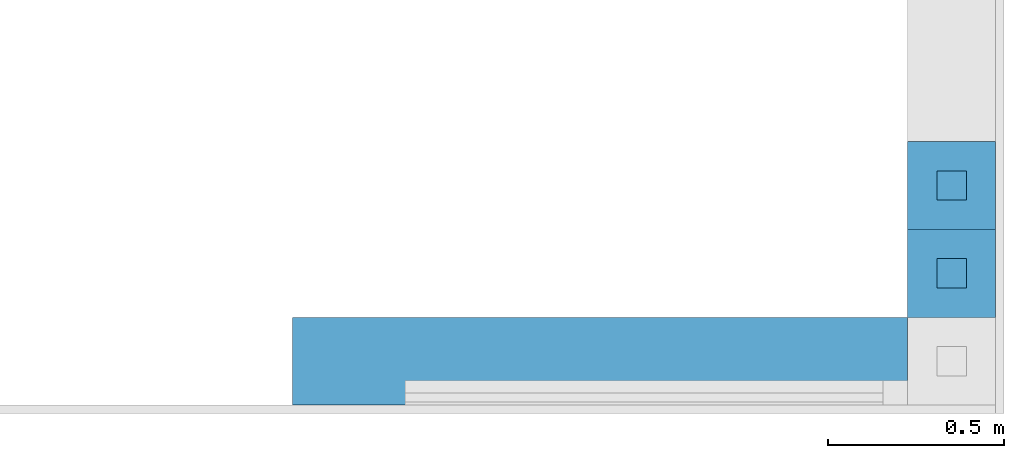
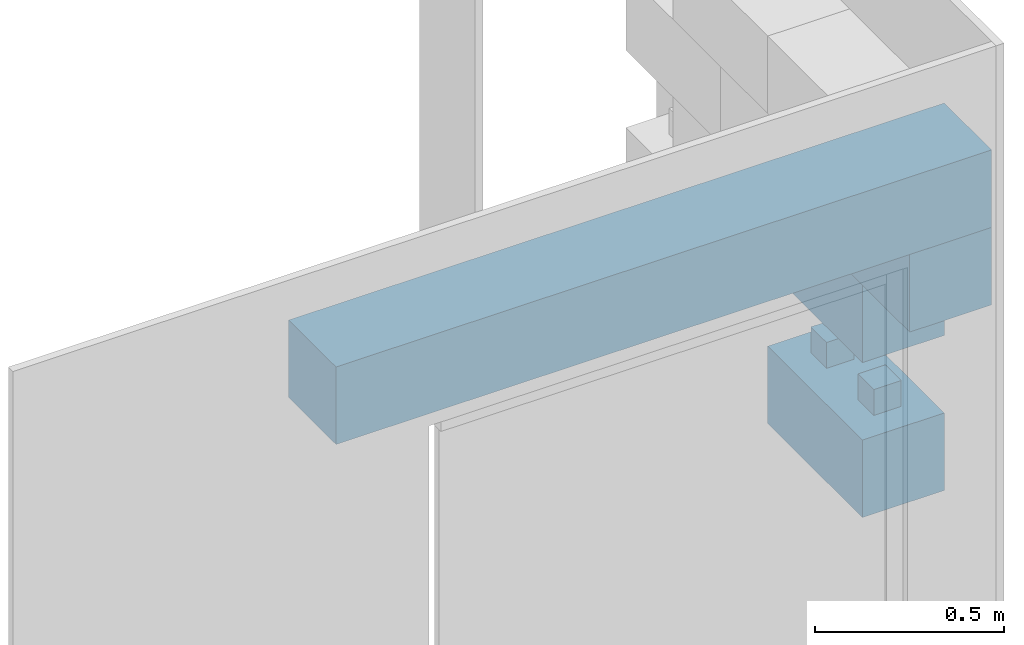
# One storey, part 1 of 5: 4 walls.
"""IFC4 building model written with IfcOpenShell, lengths in centimetres."""

from ifc_helpers import new_model, entity, si_unit, converted_unit, direction, frame, origin, place, context, subcontext, project, spatial, indexed_curve, outline, extrude, material, type_object, element, save


model = new_model("IFC4")

# Units and contexts
model_context = context("Model", 3, precision=0.001, world=origin(), true_north=direction((0.0, 1.0)))
body_context = subcontext(model_context, "Body", "Model", "MODEL_VIEW")
ifc_project = project(units=[si_unit("LENGTHUNIT", "METRE", prefix="CENTI"), si_unit("AREAUNIT", "SQUARE_METRE"), si_unit("VOLUMEUNIT", "CUBIC_METRE"), converted_unit("PLANEANGLEUNIT", "DEGREE", entity("IfcPlaneAngleMeasure", 0.017453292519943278), si_unit("PLANEANGLEUNIT", "RADIAN"), dimensions=[0, 0, 0, 0, 0, 0, 0])], contexts=[model_context])

# Site, building, storey
site_placement = place(None, origin())
site = spatial("IfcSite", under=ifc_project, at=site_placement, Name="Default", CompositionType="ELEMENT")
building_placement = place(site_placement, origin())
building = spatial("IfcBuilding", under=site, at=building_placement, CompositionType="ELEMENT")
storey_placement = place(building_placement, frame((0.0, 0.0, -4.0)))
storey = spatial("IfcBuildingStorey", under=building, at=storey_placement, Name="L00__ABOVE Slab", CompositionType="ELEMENT", Elevation=-4.000000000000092)

# Walls
ifc_material_1 = material(Name="Miscellaneous__Timber Block__Triqbriq, X", Category="Miscellaneous")
wall_type_1 = type_object("IfcWallType", Name="Columns : wll_s__TIMBER BLOCK__Triqbriq, Full Width__wp : WS25", PredefinedType="SOLIDWALL", material=ifc_material_1)
wall_1_placement = place(storey_placement, frame((3156.8289147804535, 2153.520030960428, 175.0), z_axis=(0.0, 0.0, 1.0), x_axis=(0.0, 1.0, 0.0)))
element("IfcWall", 1, at=wall_1_placement, inside=storey, type_object=wall_type_1, material=ifc_material_1, Name="Columns : wll_s__TIMBER BLOCK__Triqbriq, Full Width__wp : WS25", PredefinedType="SOLIDWALL", context=body_context, shape_type="SweptSolid", body=[
    extrude(outline(indexed_curve([(-4.166666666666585, -4.166666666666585), (4.166666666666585, -4.166666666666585), (4.166666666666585, 4.166666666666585), (-4.166666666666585, 4.166666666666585), (-4.166666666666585, -4.166666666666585)], self_intersect=False)), frame((12.500000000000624, -12.500000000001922, 16.666666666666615)), (0.0, 0.0, 1.0), 16.66666666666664),
    extrude(outline(indexed_curve([(-4.166666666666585, -4.166666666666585), (4.166666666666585, -4.166666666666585), (4.166666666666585, 4.166666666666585), (-4.166666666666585, 4.166666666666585), (-4.166666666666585, -4.166666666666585)], self_intersect=False)), frame((37.50000000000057, -12.500000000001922, 16.66666666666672)), (0.0, 0.0, 1.0), 16.66666666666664),
    extrude(outline(indexed_curve([(-4.166666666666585, -4.166666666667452), (4.166666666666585, -4.166666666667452), (4.166666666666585, 4.166666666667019), (-4.166666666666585, 4.166666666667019), (-4.166666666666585, -4.166666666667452)], self_intersect=False)), frame((4.166666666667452, -4.166666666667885, 8.333333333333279)), (0.0, 0.0, 1.0), 8.333333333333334),
    extrude(outline(indexed_curve([(-4.166666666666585, -4.166666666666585), (4.166666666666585, -4.166666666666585), (4.166666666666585, 4.166666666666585), (-4.166666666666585, 4.166666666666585), (-4.166666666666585, -4.166666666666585)], self_intersect=False)), frame((4.166666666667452, -20.833333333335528, 8.333333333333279)), (0.0, 0.0, 1.0), 8.333333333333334),
    extrude(outline(indexed_curve([(-4.166666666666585, -4.166666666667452), (4.166666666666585, -4.166666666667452), (4.166666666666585, 4.166666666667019), (-4.166666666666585, 4.166666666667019), (-4.166666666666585, -4.166666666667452)], self_intersect=False)), frame((45.833333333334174, -4.166666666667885, 8.333333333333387)), (0.0, 0.0, 1.0), 8.333333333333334),
    extrude(outline(indexed_curve([(-4.166666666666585, -4.166666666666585), (4.166666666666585, -4.166666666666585), (4.166666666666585, 4.166666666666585), (-4.166666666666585, 4.166666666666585), (-4.166666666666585, -4.166666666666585)], self_intersect=False)), frame((45.833333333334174, -20.833333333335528, 8.333333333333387)), (0.0, 0.0, 1.0), 8.333333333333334),
    extrude(outline(indexed_curve([(-8.33333333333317, -4.166666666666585), (8.333333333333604, -4.166666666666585), (8.333333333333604, 4.166666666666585), (-8.33333333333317, 4.166666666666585), (-8.33333333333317, -4.166666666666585)], self_intersect=False)), frame((25.0, -20.833333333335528, 8.333333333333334)), (0.0, 0.0, 1.0), 8.333333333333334),
    extrude(outline(indexed_curve([(-8.33333333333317, -4.166666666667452), (8.333333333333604, -4.166666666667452), (8.333333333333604, 4.166666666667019), (-8.33333333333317, 4.166666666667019), (-8.33333333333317, -4.166666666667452)], self_intersect=False)), frame((25.0, -4.166666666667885, 8.333333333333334)), (0.0, 0.0, 1.0), 8.333333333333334),
    extrude(outline(indexed_curve([(-24.999999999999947, -4.166666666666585), (24.999999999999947, -4.166666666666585), (24.999999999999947, 4.166666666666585), (-24.999999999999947, 4.166666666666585), (-24.999999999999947, -4.166666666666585)], self_intersect=False)), frame((25.0, -12.500000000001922, 8.333333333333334)), (0.0, 0.0, 1.0), 8.333333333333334),
    extrude(outline(indexed_curve([(-4.166666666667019, -12.50000000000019), (4.166666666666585, -12.50000000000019), (4.166666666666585, 12.500000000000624), (-4.166666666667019, 12.500000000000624), (-4.166666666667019, -12.50000000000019)], self_intersect=False)), frame((20.833333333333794, -12.500000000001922, 0.0)), (0.0, 0.0, 1.0), 8.333333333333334),
    extrude(outline(indexed_curve([(-4.166666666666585, -12.50000000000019), (4.166666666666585, -12.50000000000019), (4.166666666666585, 12.500000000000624), (-4.166666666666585, 12.500000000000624), (-4.166666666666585, -12.50000000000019)], self_intersect=False)), frame((29.166666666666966, -12.500000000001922, 0.0)), (0.0, 0.0, 1.0), 8.333333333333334),
    extrude(outline(indexed_curve([(-4.166666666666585, -12.50000000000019), (4.166666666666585, -12.50000000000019), (4.166666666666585, 12.500000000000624), (-4.166666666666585, 12.500000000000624), (-4.166666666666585, -12.50000000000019)], self_intersect=False)), frame((4.166666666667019, -12.500000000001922, 0.0)), (0.0, 0.0, 1.0), 8.333333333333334),
    extrude(outline(indexed_curve([(-4.166666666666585, -12.50000000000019), (4.166666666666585, -12.50000000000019), (4.166666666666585, 12.500000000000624), (-4.166666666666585, 12.500000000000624), (-4.166666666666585, -12.50000000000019)], self_intersect=False)), frame((45.83333333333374, -12.500000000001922, 0.0)), (0.0, 0.0, 1.0), 8.333333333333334),
    extrude(outline(indexed_curve([(-4.166666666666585, -4.166666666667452), (4.166666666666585, -4.166666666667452), (4.166666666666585, 4.166666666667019), (-4.166666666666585, 4.166666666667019), (-4.166666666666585, -4.166666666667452)], self_intersect=False)), frame((12.50000000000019, -4.166666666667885, 0.0)), (0.0, 0.0, 1.0), 24.999999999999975),
    extrude(outline(indexed_curve([(-4.166666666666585, -4.166666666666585), (4.166666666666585, -4.166666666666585), (4.166666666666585, 4.166666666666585), (-4.166666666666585, 4.166666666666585), (-4.166666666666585, -4.166666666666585)], self_intersect=False)), frame((12.50000000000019, -20.833333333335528, 0.0)), (0.0, 0.0, 1.0), 24.999999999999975),
    extrude(outline(indexed_curve([(-4.166666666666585, -4.166666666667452), (4.166666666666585, -4.166666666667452), (4.166666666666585, 4.166666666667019), (-4.166666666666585, 4.166666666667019), (-4.166666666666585, -4.166666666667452)], self_intersect=False)), frame((37.500000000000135, -4.166666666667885, 0.0)), (0.0, 0.0, 1.0), 24.999999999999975),
    extrude(outline(indexed_curve([(-4.166666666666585, -4.166666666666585), (4.166666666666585, -4.166666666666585), (4.166666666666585, 4.166666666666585), (-4.166666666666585, 4.166666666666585), (-4.166666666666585, -4.166666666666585)], self_intersect=False)), frame((37.500000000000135, -20.833333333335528, 0.0)), (0.0, 0.0, 1.0), 24.999999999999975),
    extrude(outline(indexed_curve([(-4.166666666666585, -12.50000000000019), (4.166666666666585, -12.50000000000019), (4.166666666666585, 12.500000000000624), (-4.166666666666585, 12.500000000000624), (-4.166666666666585, -12.50000000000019)], self_intersect=False)), frame((4.166666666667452, -12.500000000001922, 16.666666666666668)), (0.0, 0.0, 1.0), 8.333333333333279),
    extrude(outline(indexed_curve([(-4.166666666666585, -12.50000000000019), (4.166666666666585, -12.50000000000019), (4.166666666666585, 12.500000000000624), (-4.166666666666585, 12.500000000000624), (-4.166666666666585, -12.50000000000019)], self_intersect=False)), frame((20.833333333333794, -12.500000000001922, 16.66666666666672)), (0.0, 0.0, 1.0), 8.333333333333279),
    extrude(outline(indexed_curve([(-4.166666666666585, -12.50000000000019), (4.166666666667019, -12.50000000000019), (4.166666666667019, 12.500000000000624), (-4.166666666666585, 12.500000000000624), (-4.166666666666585, -12.50000000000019)], self_intersect=False)), frame((29.166666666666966, -12.500000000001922, 16.66666666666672)), (0.0, 0.0, 1.0), 8.333333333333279),
    extrude(outline(indexed_curve([(-4.166666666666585, -12.50000000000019), (4.166666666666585, -12.50000000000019), (4.166666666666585, 12.500000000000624), (-4.166666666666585, 12.500000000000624), (-4.166666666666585, -12.50000000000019)], self_intersect=False)), frame((45.833333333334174, -12.500000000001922, 16.666666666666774)), (0.0, 0.0, 1.0), 8.333333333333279),
])
wall_2_placement = place(storey_placement, frame((3156.8289147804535, 2153.520030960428, 125.0), z_axis=(0.0, 0.0, 1.0), x_axis=(0.0, 1.0, 0.0)))
element("IfcWall", 2, at=wall_2_placement, inside=storey, type_object=wall_type_1, material=ifc_material_1, Name="Columns : wll_s__TIMBER BLOCK__Triqbriq, Full Width__wp : WS25", PredefinedType="SOLIDWALL", context=body_context, shape_type="SweptSolid", body=[
    extrude(outline(indexed_curve([(-4.166666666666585, -4.166666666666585), (4.166666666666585, -4.166666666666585), (4.166666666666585, 4.166666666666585), (-4.166666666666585, 4.166666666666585), (-4.166666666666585, -4.166666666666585)], self_intersect=False)), frame((12.500000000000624, -12.500000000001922, 16.666666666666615)), (0.0, 0.0, 1.0), 16.66666666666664),
    extrude(outline(indexed_curve([(-4.166666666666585, -4.166666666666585), (4.166666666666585, -4.166666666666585), (4.166666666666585, 4.166666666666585), (-4.166666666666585, 4.166666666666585), (-4.166666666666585, -4.166666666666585)], self_intersect=False)), frame((37.50000000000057, -12.500000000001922, 16.66666666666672)), (0.0, 0.0, 1.0), 16.66666666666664),
    extrude(outline(indexed_curve([(-4.166666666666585, -4.166666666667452), (4.166666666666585, -4.166666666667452), (4.166666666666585, 4.166666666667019), (-4.166666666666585, 4.166666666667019), (-4.166666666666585, -4.166666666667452)], self_intersect=False)), frame((4.166666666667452, -4.166666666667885, 8.333333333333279)), (0.0, 0.0, 1.0), 8.333333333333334),
    extrude(outline(indexed_curve([(-4.166666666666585, -4.166666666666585), (4.166666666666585, -4.166666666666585), (4.166666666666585, 4.166666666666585), (-4.166666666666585, 4.166666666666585), (-4.166666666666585, -4.166666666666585)], self_intersect=False)), frame((4.166666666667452, -20.833333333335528, 8.333333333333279)), (0.0, 0.0, 1.0), 8.333333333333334),
    extrude(outline(indexed_curve([(-4.166666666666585, -4.166666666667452), (4.166666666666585, -4.166666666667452), (4.166666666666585, 4.166666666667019), (-4.166666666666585, 4.166666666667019), (-4.166666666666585, -4.166666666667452)], self_intersect=False)), frame((45.833333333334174, -4.166666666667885, 8.333333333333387)), (0.0, 0.0, 1.0), 8.333333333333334),
    extrude(outline(indexed_curve([(-4.166666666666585, -4.166666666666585), (4.166666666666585, -4.166666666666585), (4.166666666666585, 4.166666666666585), (-4.166666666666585, 4.166666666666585), (-4.166666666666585, -4.166666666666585)], self_intersect=False)), frame((45.833333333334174, -20.833333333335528, 8.333333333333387)), (0.0, 0.0, 1.0), 8.333333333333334),
    extrude(outline(indexed_curve([(-8.33333333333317, -4.166666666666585), (8.333333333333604, -4.166666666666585), (8.333333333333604, 4.166666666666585), (-8.33333333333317, 4.166666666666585), (-8.33333333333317, -4.166666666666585)], self_intersect=False)), frame((25.0, -20.833333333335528, 8.333333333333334)), (0.0, 0.0, 1.0), 8.333333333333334),
    extrude(outline(indexed_curve([(-8.33333333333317, -4.166666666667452), (8.333333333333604, -4.166666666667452), (8.333333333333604, 4.166666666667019), (-8.33333333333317, 4.166666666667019), (-8.33333333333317, -4.166666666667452)], self_intersect=False)), frame((25.0, -4.166666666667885, 8.333333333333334)), (0.0, 0.0, 1.0), 8.333333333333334),
    extrude(outline(indexed_curve([(-24.999999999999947, -4.166666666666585), (24.999999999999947, -4.166666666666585), (24.999999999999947, 4.166666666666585), (-24.999999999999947, 4.166666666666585), (-24.999999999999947, -4.166666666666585)], self_intersect=False)), frame((25.0, -12.500000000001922, 8.333333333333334)), (0.0, 0.0, 1.0), 8.333333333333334),
    extrude(outline(indexed_curve([(-4.166666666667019, -12.50000000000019), (4.166666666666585, -12.50000000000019), (4.166666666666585, 12.500000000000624), (-4.166666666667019, 12.500000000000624), (-4.166666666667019, -12.50000000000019)], self_intersect=False)), frame((20.833333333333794, -12.500000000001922, 0.0)), (0.0, 0.0, 1.0), 8.333333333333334),
    extrude(outline(indexed_curve([(-4.166666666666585, -12.50000000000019), (4.166666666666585, -12.50000000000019), (4.166666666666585, 12.500000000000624), (-4.166666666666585, 12.500000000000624), (-4.166666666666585, -12.50000000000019)], self_intersect=False)), frame((29.166666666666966, -12.500000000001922, 0.0)), (0.0, 0.0, 1.0), 8.333333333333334),
    extrude(outline(indexed_curve([(-4.166666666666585, -12.50000000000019), (4.166666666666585, -12.50000000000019), (4.166666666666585, 12.500000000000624), (-4.166666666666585, 12.500000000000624), (-4.166666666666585, -12.50000000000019)], self_intersect=False)), frame((4.166666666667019, -12.500000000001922, 0.0)), (0.0, 0.0, 1.0), 8.333333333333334),
    extrude(outline(indexed_curve([(-4.166666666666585, -12.50000000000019), (4.166666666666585, -12.50000000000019), (4.166666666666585, 12.500000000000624), (-4.166666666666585, 12.500000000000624), (-4.166666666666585, -12.50000000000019)], self_intersect=False)), frame((45.83333333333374, -12.500000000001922, 0.0)), (0.0, 0.0, 1.0), 8.333333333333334),
    extrude(outline(indexed_curve([(-4.166666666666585, -4.166666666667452), (4.166666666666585, -4.166666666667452), (4.166666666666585, 4.166666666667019), (-4.166666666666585, 4.166666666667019), (-4.166666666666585, -4.166666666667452)], self_intersect=False)), frame((12.50000000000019, -4.166666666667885, 0.0)), (0.0, 0.0, 1.0), 24.999999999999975),
    extrude(outline(indexed_curve([(-4.166666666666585, -4.166666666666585), (4.166666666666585, -4.166666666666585), (4.166666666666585, 4.166666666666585), (-4.166666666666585, 4.166666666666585), (-4.166666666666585, -4.166666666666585)], self_intersect=False)), frame((12.50000000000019, -20.833333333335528, 0.0)), (0.0, 0.0, 1.0), 24.999999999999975),
    extrude(outline(indexed_curve([(-4.166666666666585, -4.166666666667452), (4.166666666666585, -4.166666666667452), (4.166666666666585, 4.166666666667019), (-4.166666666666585, 4.166666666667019), (-4.166666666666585, -4.166666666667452)], self_intersect=False)), frame((37.500000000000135, -4.166666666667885, 0.0)), (0.0, 0.0, 1.0), 24.999999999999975),
    extrude(outline(indexed_curve([(-4.166666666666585, -4.166666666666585), (4.166666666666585, -4.166666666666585), (4.166666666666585, 4.166666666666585), (-4.166666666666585, 4.166666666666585), (-4.166666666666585, -4.166666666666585)], self_intersect=False)), frame((37.500000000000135, -20.833333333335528, 0.0)), (0.0, 0.0, 1.0), 24.999999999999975),
    extrude(outline(indexed_curve([(-4.166666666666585, -12.50000000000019), (4.166666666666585, -12.50000000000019), (4.166666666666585, 12.500000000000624), (-4.166666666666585, 12.500000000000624), (-4.166666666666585, -12.50000000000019)], self_intersect=False)), frame((4.166666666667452, -12.500000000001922, 16.666666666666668)), (0.0, 0.0, 1.0), 8.333333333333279),
    extrude(outline(indexed_curve([(-4.166666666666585, -12.50000000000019), (4.166666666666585, -12.50000000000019), (4.166666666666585, 12.500000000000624), (-4.166666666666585, 12.500000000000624), (-4.166666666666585, -12.50000000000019)], self_intersect=False)), frame((20.833333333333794, -12.500000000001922, 16.66666666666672)), (0.0, 0.0, 1.0), 8.333333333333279),
    extrude(outline(indexed_curve([(-4.166666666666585, -12.50000000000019), (4.166666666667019, -12.50000000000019), (4.166666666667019, 12.500000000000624), (-4.166666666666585, 12.500000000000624), (-4.166666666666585, -12.50000000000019)], self_intersect=False)), frame((29.166666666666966, -12.500000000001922, 16.66666666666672)), (0.0, 0.0, 1.0), 8.333333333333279),
    extrude(outline(indexed_curve([(-4.166666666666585, -12.50000000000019), (4.166666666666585, -12.50000000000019), (4.166666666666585, 12.500000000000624), (-4.166666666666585, 12.500000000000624), (-4.166666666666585, -12.50000000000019)], self_intersect=False)), frame((45.833333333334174, -12.500000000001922, 16.666666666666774)), (0.0, 0.0, 1.0), 8.333333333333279),
])
wall_3_placement = place(storey_placement, frame((3156.828914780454, 2128.5200309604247, 200.0), z_axis=(0.0, 0.0, 1.0), x_axis=(0.0, 1.0, 0.0)))
element("IfcWall", 3, at=wall_3_placement, inside=storey, type_object=wall_type_1, material=ifc_material_1, Name="Columns : wll_s__TIMBER BLOCK__Triqbriq, Full Width__wp : WS25", PredefinedType="SOLIDWALL", context=body_context, shape_type="SweptSolid", body=[
    extrude(outline(indexed_curve([(-4.166666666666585, -4.166666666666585), (4.166666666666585, -4.166666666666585), (4.166666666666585, 4.166666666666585), (-4.166666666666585, 4.166666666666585), (-4.166666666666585, -4.166666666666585)], self_intersect=False)), frame((12.500000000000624, -12.500000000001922, 16.666666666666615)), (0.0, 0.0, 1.0), 16.66666666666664),
    extrude(outline(indexed_curve([(-4.166666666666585, -4.166666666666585), (4.166666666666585, -4.166666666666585), (4.166666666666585, 4.166666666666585), (-4.166666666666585, 4.166666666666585), (-4.166666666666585, -4.166666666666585)], self_intersect=False)), frame((37.50000000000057, -12.500000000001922, 16.66666666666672)), (0.0, 0.0, 1.0), 16.66666666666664),
    extrude(outline(indexed_curve([(-4.166666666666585, -4.166666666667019), (4.166666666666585, -4.166666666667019), (4.166666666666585, 4.166666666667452), (-4.166666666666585, 4.166666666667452), (-4.166666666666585, -4.166666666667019)], self_intersect=False)), frame((4.166666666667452, -4.166666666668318, 8.333333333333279)), (0.0, 0.0, 1.0), 8.333333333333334),
    extrude(outline(indexed_curve([(-4.166666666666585, -4.166666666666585), (4.166666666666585, -4.166666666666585), (4.166666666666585, 4.166666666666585), (-4.166666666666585, 4.166666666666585), (-4.166666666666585, -4.166666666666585)], self_intersect=False)), frame((4.166666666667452, -20.833333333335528, 8.333333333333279)), (0.0, 0.0, 1.0), 8.333333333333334),
    extrude(outline(indexed_curve([(-4.166666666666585, -4.166666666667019), (4.166666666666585, -4.166666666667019), (4.166666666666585, 4.166666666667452), (-4.166666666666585, 4.166666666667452), (-4.166666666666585, -4.166666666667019)], self_intersect=False)), frame((45.833333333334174, -4.166666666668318, 8.333333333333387)), (0.0, 0.0, 1.0), 8.333333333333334),
    extrude(outline(indexed_curve([(-4.166666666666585, -4.166666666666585), (4.166666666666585, -4.166666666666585), (4.166666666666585, 4.166666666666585), (-4.166666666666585, 4.166666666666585), (-4.166666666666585, -4.166666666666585)], self_intersect=False)), frame((45.833333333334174, -20.833333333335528, 8.333333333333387)), (0.0, 0.0, 1.0), 8.333333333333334),
    extrude(outline(indexed_curve([(-8.333333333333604, -4.166666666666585), (8.33333333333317, -4.166666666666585), (8.33333333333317, 4.166666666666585), (-8.333333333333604, 4.166666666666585), (-8.333333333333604, -4.166666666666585)], self_intersect=False)), frame((25.0, -20.833333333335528, 8.333333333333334)), (0.0, 0.0, 1.0), 8.333333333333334),
    extrude(outline(indexed_curve([(-8.333333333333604, -4.166666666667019), (8.33333333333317, -4.166666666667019), (8.33333333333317, 4.166666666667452), (-8.333333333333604, 4.166666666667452), (-8.333333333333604, -4.166666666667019)], self_intersect=False)), frame((25.0, -4.166666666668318, 8.333333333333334)), (0.0, 0.0, 1.0), 8.333333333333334),
    extrude(outline(indexed_curve([(-24.999999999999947, -4.166666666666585), (24.999999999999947, -4.166666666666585), (24.999999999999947, 4.166666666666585), (-24.999999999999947, 4.166666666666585), (-24.999999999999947, -4.166666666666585)], self_intersect=False)), frame((25.0, -12.500000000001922, 8.333333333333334)), (0.0, 0.0, 1.0), 8.333333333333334),
    extrude(outline(indexed_curve([(-4.166666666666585, -12.50000000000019), (4.166666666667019, -12.50000000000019), (4.166666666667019, 12.500000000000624), (-4.166666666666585, 12.500000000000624), (-4.166666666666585, -12.50000000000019)], self_intersect=False)), frame((20.83333333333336, -12.500000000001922, 0.0)), (0.0, 0.0, 1.0), 8.333333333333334),
    extrude(outline(indexed_curve([(-4.166666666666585, -12.50000000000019), (4.166666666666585, -12.50000000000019), (4.166666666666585, 12.500000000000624), (-4.166666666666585, 12.500000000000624), (-4.166666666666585, -12.50000000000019)], self_intersect=False)), frame((29.166666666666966, -12.500000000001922, 0.0)), (0.0, 0.0, 1.0), 8.333333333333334),
    extrude(outline(indexed_curve([(-4.166666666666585, -12.50000000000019), (4.166666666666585, -12.50000000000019), (4.166666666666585, 12.500000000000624), (-4.166666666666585, 12.500000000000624), (-4.166666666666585, -12.50000000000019)], self_intersect=False)), frame((4.166666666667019, -12.500000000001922, 0.0)), (0.0, 0.0, 1.0), 8.333333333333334),
    extrude(outline(indexed_curve([(-4.166666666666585, -12.50000000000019), (4.166666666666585, -12.50000000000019), (4.166666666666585, 12.500000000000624), (-4.166666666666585, 12.500000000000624), (-4.166666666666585, -12.50000000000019)], self_intersect=False)), frame((45.83333333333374, -12.500000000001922, 0.0)), (0.0, 0.0, 1.0), 8.333333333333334),
    extrude(outline(indexed_curve([(-4.166666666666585, -4.166666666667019), (4.166666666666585, -4.166666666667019), (4.166666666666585, 4.166666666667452), (-4.166666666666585, 4.166666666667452), (-4.166666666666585, -4.166666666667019)], self_intersect=False)), frame((12.50000000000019, -4.166666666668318, 0.0)), (0.0, 0.0, 1.0), 24.999999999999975),
    extrude(outline(indexed_curve([(-4.166666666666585, -4.166666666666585), (4.166666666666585, -4.166666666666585), (4.166666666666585, 4.166666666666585), (-4.166666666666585, 4.166666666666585), (-4.166666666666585, -4.166666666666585)], self_intersect=False)), frame((12.50000000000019, -20.833333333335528, 0.0)), (0.0, 0.0, 1.0), 24.999999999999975),
    extrude(outline(indexed_curve([(-4.166666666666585, -4.166666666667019), (4.166666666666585, -4.166666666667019), (4.166666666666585, 4.166666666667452), (-4.166666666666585, 4.166666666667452), (-4.166666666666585, -4.166666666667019)], self_intersect=False)), frame((37.500000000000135, -4.166666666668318, 0.0)), (0.0, 0.0, 1.0), 24.999999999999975),
    extrude(outline(indexed_curve([(-4.166666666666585, -4.166666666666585), (4.166666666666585, -4.166666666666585), (4.166666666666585, 4.166666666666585), (-4.166666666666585, 4.166666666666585), (-4.166666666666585, -4.166666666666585)], self_intersect=False)), frame((37.500000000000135, -20.833333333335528, 0.0)), (0.0, 0.0, 1.0), 24.999999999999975),
    extrude(outline(indexed_curve([(-4.166666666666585, -12.50000000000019), (4.166666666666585, -12.50000000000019), (4.166666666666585, 12.500000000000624), (-4.166666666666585, 12.500000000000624), (-4.166666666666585, -12.50000000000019)], self_intersect=False)), frame((4.166666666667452, -12.500000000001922, 16.666666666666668)), (0.0, 0.0, 1.0), 8.333333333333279),
    extrude(outline(indexed_curve([(-4.166666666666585, -12.50000000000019), (4.166666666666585, -12.50000000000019), (4.166666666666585, 12.500000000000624), (-4.166666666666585, 12.500000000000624), (-4.166666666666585, -12.50000000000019)], self_intersect=False)), frame((20.833333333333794, -12.500000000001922, 16.66666666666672)), (0.0, 0.0, 1.0), 8.333333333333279),
    extrude(outline(indexed_curve([(-4.166666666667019, -12.50000000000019), (4.166666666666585, -12.50000000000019), (4.166666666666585, 12.500000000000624), (-4.166666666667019, 12.500000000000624), (-4.166666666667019, -12.50000000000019)], self_intersect=False)), frame((29.1666666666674, -12.500000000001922, 16.66666666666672)), (0.0, 0.0, 1.0), 8.333333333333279),
    extrude(outline(indexed_curve([(-4.166666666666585, -12.50000000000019), (4.166666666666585, -12.50000000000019), (4.166666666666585, 12.500000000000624), (-4.166666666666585, 12.500000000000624), (-4.166666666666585, -12.50000000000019)], self_intersect=False)), frame((45.833333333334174, -12.500000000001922, 16.666666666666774)), (0.0, 0.0, 1.0), 8.333333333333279),
])
ifc_material_2 = material(Name="_STRUCTURE__Wood Solid")
wall_type_2 = type_object("IfcWallType", Name="Structural Framing : wll_s__LINTEL__Triqbriq, Rectangular__wp : Wood", PredefinedType="SOLIDWALL", material=ifc_material_2)
wall_4_placement = place(storey_placement, frame((2981.828914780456, 2128.520030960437, 225.0)))
element("IfcWall", 4, at=wall_4_placement, inside=storey, type_object=wall_type_2, material=ifc_material_2, Name="Structural Framing : wll_s__LINTEL__Triqbriq, Rectangular__wp : Wood", PredefinedType="SOLIDWALL", context=body_context, shape_type="SweptSolid", body=[
    extrude(outline(indexed_curve([(-99.99999999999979, -12.50000000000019), (100.00000000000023, -12.50000000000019), (100.00000000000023, 12.499999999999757), (-99.99999999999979, 12.499999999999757), (-99.99999999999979, -12.50000000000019)], self_intersect=False)), frame((100.0, 12.499999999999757, 0.0), z_axis=(0.0, 0.0, 1.0), x_axis=(-1.0, 0.0, 0.0)), (0.0, 0.0, 1.0), 25.0),
])

save(model, "model.ifc")
